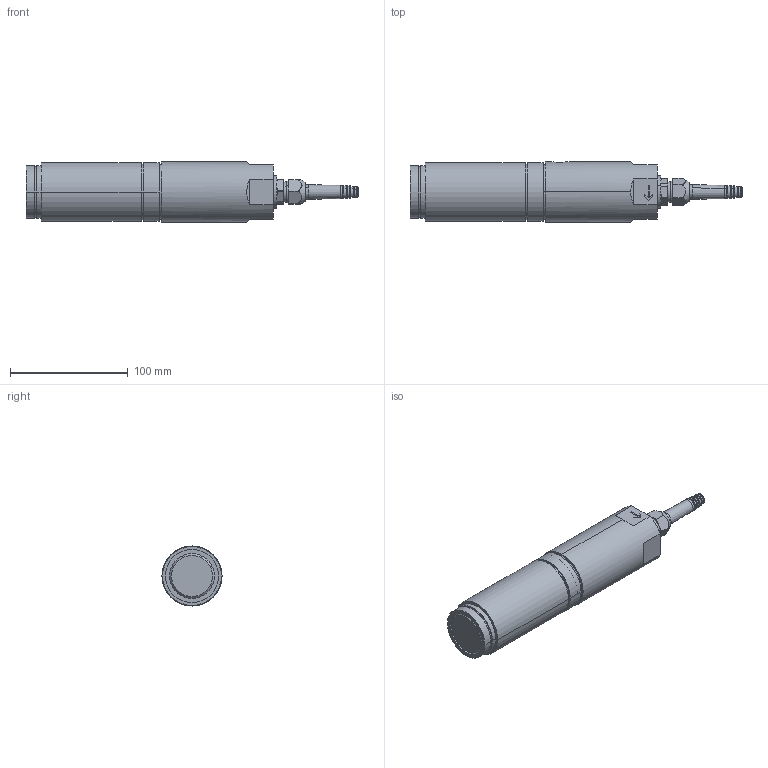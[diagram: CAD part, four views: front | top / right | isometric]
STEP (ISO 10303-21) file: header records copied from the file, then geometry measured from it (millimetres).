
FILE_DESCRIPTION (( 'STEP AP214' ), '1' );
FILE_NAME ('KIS-2 20 kN Load Cell.STEP', '2021-07-01T06:56:02', ( '' ), ( '' ), 'SwSTEP 2.0', 'SolidWorks 2021', '' );
FILE_SCHEMA (( 'AUTOMOTIVE_DESIGN' ));
Length unit declared in the file: millimetre
Products named in the file (7): 4087778r5; Wiberger-frp_A2_6x18; 6385540r1; KIS-2 20 kN Load Cell; pg 9 kabelförskruvning; 5159346r3; M26x1.5 - Pg9 - 6369829
Assembly tree (6 placements, depth 2):
  KIS-2 20 kN Load Cell
    4087778r5
    5159346r3
    6385540r1
    M26x1.5 - Pg9 - 6369829
    Wiberger-frp_A2_6x18
    pg 9 kabelförskruvning
Bounding box: 282 x 51 x 51 mm (x, y, z)
Volume: 407435.3 mm3; surface area: 86424.7 mm2
Topology: 6 solids, 9 shells, 414 faces, 1007 edges, 645 vertices
Faces by surface type: plane 201, cylinder 96, cone 55, bspline 50, torus 12
Entity records: 15338 total; most frequent: CARTESIAN_POINT 4515, ORIENTED_EDGE 2010, DIRECTION 1969, EDGE_CURVE 1005, AXIS2_PLACEMENT_3D 685, VERTEX_POINT 645, LINE 599, VECTOR 599
